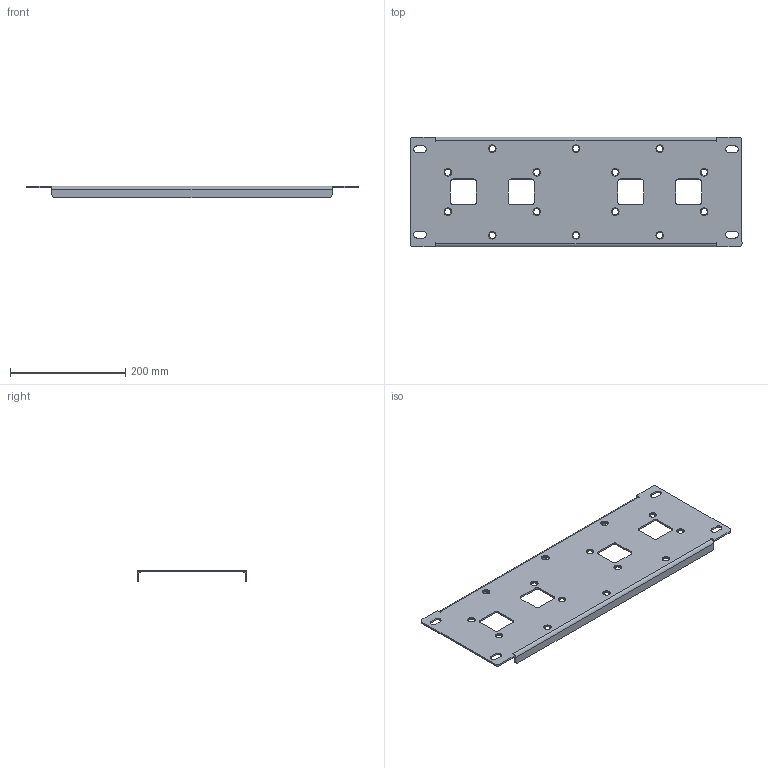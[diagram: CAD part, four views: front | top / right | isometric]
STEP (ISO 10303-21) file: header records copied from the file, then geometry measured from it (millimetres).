
FILE_DESCRIPTION (( 'STEP AP203' ), '1' );
FILE_NAME ('ORW-72.24.70.001 眈翴錪.STEP', '2025-10-13T13:18:11', ( '燴僽樥' ), ( '' ), 'SwSTEP 2.0', 'SolidWorks 2025', '' );
FILE_SCHEMA (( 'CONFIG_CONTROL_DESIGN' ));
Length unit declared in the file: millimetre
Products named in the file (1): ORW-72.24.70.001 Панель
Bounding box: 575 x 190 x 20 mm (x, y, z)
Volume: 340295.8 mm3; surface area: 235863.5 mm2
Topology: 1 solids, 1 shells, 122 faces, 344 edges, 224 vertices
Faces by surface type: plane 58, cylinder 50, cone 14
Full cylindrical faces by diameter (mm): 10.9 x14
Entity records: 3851 total; most frequent: DIRECTION 662, CARTESIAN_POINT 635, ORIENTED_EDGE 604, EDGE_CURVE 302, AXIS2_PLACEMENT_3D 237, VERTEX_POINT 210, EDGE_LOOP 194, LINE 188
